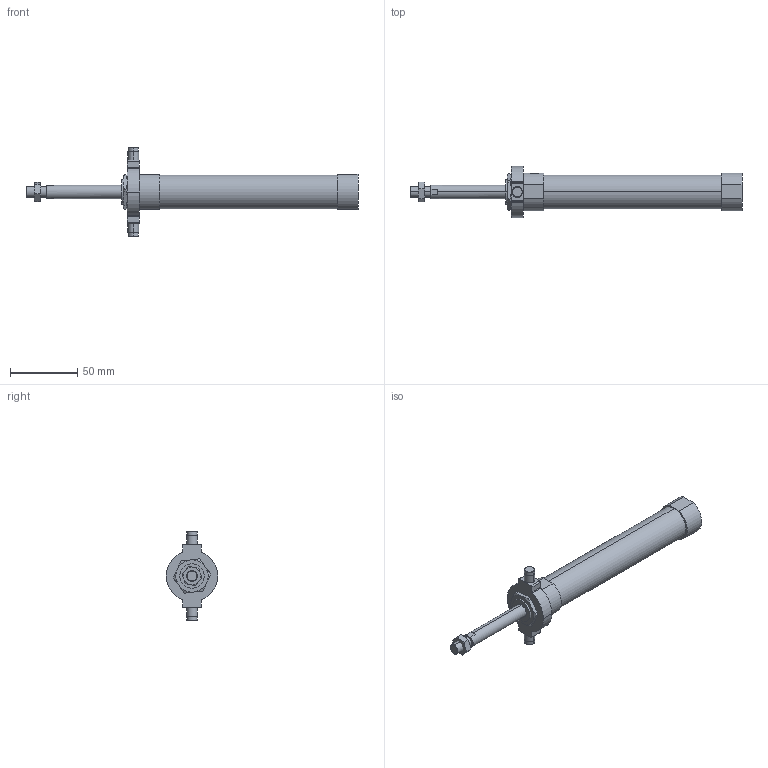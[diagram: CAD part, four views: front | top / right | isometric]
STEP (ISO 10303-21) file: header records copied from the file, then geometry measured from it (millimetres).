
FILE_DESCRIPTION (( 'STEP AP203' ), '1' );
FILE_NAME ('JGND0-20-50-T.STEP', '2016-08-04T02:08:18', ( '' ), ( '' ), 'SwSTEP 2.0', 'SolidWorks 2014', '' );
FILE_SCHEMA (( 'CONFIG_CONTROL_DESIGN' ));
Length unit declared in the file: millimetre
Products named in the file (5): JGND0-20-50-T; J#2-20-T; J#0-20-50(P)
Assembly tree (4 placements, depth 2):
  JGND0-20-50-T
    J#0-20-50(P)
    (unnamed)
    (unnamed)
    J#2-20-T
Bounding box: 246 x 38 x 66 mm (x, y, z)
Volume: 101764.4 mm3; surface area: 23339 mm2
Topology: 4 solids, 4 shells, 120 faces, 269 edges, 166 vertices
Faces by surface type: plane 43, cylinder 41, torus 24, cone 12
Entity records: 4146 total; most frequent: CARTESIAN_POINT 952, DIRECTION 585, ORIENTED_EDGE 538, EDGE_CURVE 269, AXIS2_PLACEMENT_3D 243, VERTEX_POINT 166, EDGE_LOOP 135, ADVANCED_FACE 120
